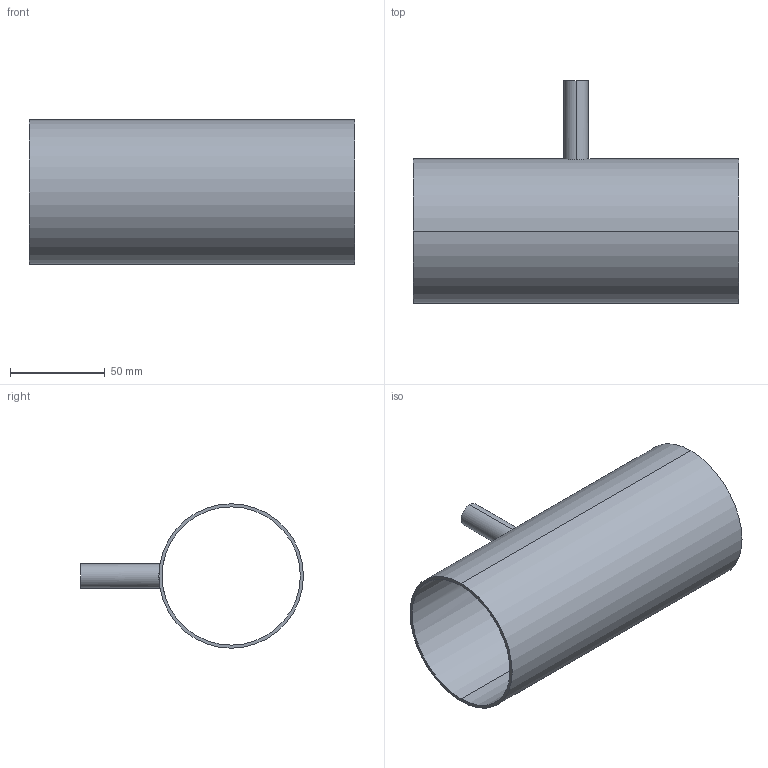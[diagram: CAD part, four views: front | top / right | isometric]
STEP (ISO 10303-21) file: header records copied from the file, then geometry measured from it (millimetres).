
FILE_DESCRIPTION (( 'STEP AP214' ), '1' );
FILE_NAME ('TE7RWWW6L3.0x.5-...STEP', '2016-05-24T04:20:20', ( 'eran' ), ( '' ), 'SwSTEP 2.0', 'SolidWorks 2016', '' );
FILE_SCHEMA (( 'AUTOMOTIVE_DESIGN' ));
Length unit declared in the file: millimetre
Products named in the file (1): TE7RWWW6L3.0x.5-..
Bounding box: 171.4 x 117.5 x 76.2 mm (x, y, z)
Volume: 68498.4 mm3; surface area: 83850.5 mm2
Topology: 1 solids, 1 shells, 11 faces, 24 edges, 16 vertices
Faces by surface type: cylinder 8, plane 3
Entity records: 494 total; most frequent: CARTESIAN_POINT 202, DIRECTION 56, ORIENTED_EDGE 48, EDGE_CURVE 24, AXIS2_PLACEMENT_3D 24, VERTEX_POINT 16, EDGE_LOOP 16, CIRCLE 12
